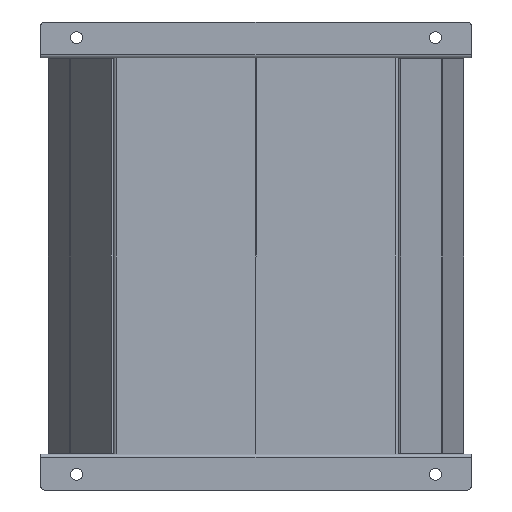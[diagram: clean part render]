
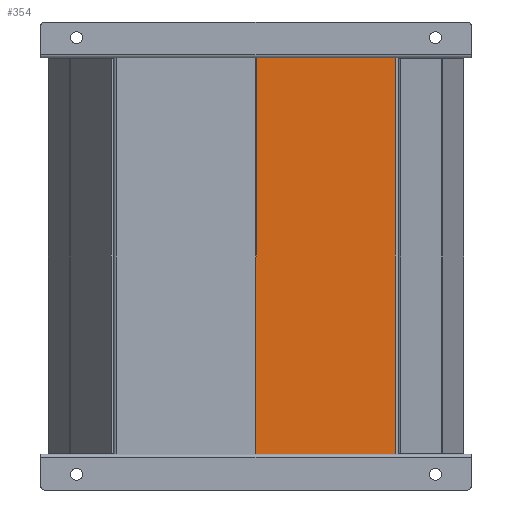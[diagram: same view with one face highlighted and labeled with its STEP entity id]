
A CAD part, front view. The second image highlights one B-rep face of the part: STEP entity #354.
In plain terms, the highlighted planar face has unit normal (0, -1, 0).
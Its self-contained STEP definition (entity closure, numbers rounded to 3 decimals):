
#212 = EDGE_LOOP ( 'NONE', ( #5277, #5278, #5298, #5349, #460, #461, #425, #426, #429, #356, #283, #387 ) ) ;
#225 = VERTEX_POINT ( 'NONE', #3616 ) ;
#227 = EDGE_CURVE ( 'NONE', #228, #225, #3615, .T. ) ;
#228 = VERTEX_POINT ( 'NONE', #3611 ) ;
#283 = ORIENTED_EDGE ( 'NONE', *, *, #3213, .F. ) ;
#284 = EDGE_CURVE ( 'NONE', #3287, #228, #3742, .T. ) ;
#354 = ADVANCED_FACE ( 'NONE', ( #3879 ), #3878, .F. ) ;
#355 = VERTEX_POINT ( 'NONE', #3873 ) ;
#356 = ORIENTED_EDGE ( 'NONE', *, *, #357, .F. ) ;
#357 = EDGE_CURVE ( 'NONE', #3146, #355, #3872, .T. ) ;
#387 = ORIENTED_EDGE ( 'NONE', *, *, #284, .T. ) ;
#425 = ORIENTED_EDGE ( 'NONE', *, *, #3205, .F. ) ;
#426 = ORIENTED_EDGE ( 'NONE', *, *, #427, .F. ) ;
#427 = EDGE_CURVE ( 'NONE', #428, #3203, #3959, .T. ) ;
#428 = VERTEX_POINT ( 'NONE', #4182 ) ;
#429 = ORIENTED_EDGE ( 'NONE', *, *, #430, .F. ) ;
#430 = EDGE_CURVE ( 'NONE', #355, #428, #4181, .T. ) ;
#459 = EDGE_CURVE ( 'NONE', #5300, #3100, #3996, .T. ) ;
#460 = ORIENTED_EDGE ( 'NONE', *, *, #3193, .T. ) ;
#461 = ORIENTED_EDGE ( 'NONE', *, *, #462, .F. ) ;
#462 = EDGE_CURVE ( 'NONE', #3206, #3190, #3992, .T. ) ;
#3100 = VERTEX_POINT ( 'NONE', #7012 ) ;
#3146 = VERTEX_POINT ( 'NONE', #7328 ) ;
#3190 = VERTEX_POINT ( 'NONE', #7225 ) ;
#3193 = EDGE_CURVE ( 'NONE', #3100, #3190, #7269, .T. ) ;
#3203 = VERTEX_POINT ( 'NONE', #7203 ) ;
#3205 = EDGE_CURVE ( 'NONE', #3203, #3206, #7285, .T. ) ;
#3206 = VERTEX_POINT ( 'NONE', #7281 ) ;
#3213 = EDGE_CURVE ( 'NONE', #3287, #3146, #7271, .T. ) ;
#3287 = VERTEX_POINT ( 'NONE', #7352 ) ;
#3611 = CARTESIAN_POINT ( 'NONE',  ( -277.5, -149.45, 195. ) ) ;
#3612 = DIRECTION ( 'NONE',  ( 0., 0., -1. ) ) ;
#3613 = VECTOR ( 'NONE', #3612, 1000. ) ;
#3614 = CARTESIAN_POINT ( 'NONE',  ( -277.5, -149.45, 195. ) ) ;
#3615 = LINE ( 'NONE', #3614, #3613 ) ;
#3616 = CARTESIAN_POINT ( 'NONE',  ( -277.5, -149.45, 56.1 ) ) ;
#3739 = DIRECTION ( 'NONE',  ( -1., 0., 0. ) ) ;
#3740 = VECTOR ( 'NONE', #3739, 1000. ) ;
#3741 = CARTESIAN_POINT ( 'NONE',  ( 277.5, -149.45, 195. ) ) ;
#3742 = LINE ( 'NONE', #3741, #3740 ) ;
#3869 = DIRECTION ( 'NONE',  ( 1., 0., 0. ) ) ;
#3870 = VECTOR ( 'NONE', #3869, 1000. ) ;
#3871 = CARTESIAN_POINT ( 'NONE',  ( 280.5, -149.45, 56.1 ) ) ;
#3872 = LINE ( 'NONE', #3871, #3870 ) ;
#3873 = CARTESIAN_POINT ( 'NONE',  ( 280.5, -149.45, 56.1 ) ) ;
#3874 = DIRECTION ( 'NONE',  ( 0., 0., 1. ) ) ;
#3875 = DIRECTION ( 'NONE',  ( 0., 1., 0. ) ) ;
#3876 = CARTESIAN_POINT ( 'NONE',  ( 277.5, -149.45, 195. ) ) ;
#3877 = AXIS2_PLACEMENT_3D ( 'NONE', #3876, #3875, #3874 ) ;
#3878 = PLANE ( 'NONE',  #3877 ) ;
#3879 = FACE_OUTER_BOUND ( 'NONE', #212, .T. ) ;
#3956 = DIRECTION ( 'NONE',  ( -1., 0., 0. ) ) ;
#3957 = VECTOR ( 'NONE', #3956, 1000. ) ;
#3958 = CARTESIAN_POINT ( 'NONE',  ( 277.5, -149.45, 50.1 ) ) ;
#3959 = LINE ( 'NONE', #3958, #3957 ) ;
#3989 = DIRECTION ( 'NONE',  ( -1., 0., 0. ) ) ;
#3990 = VECTOR ( 'NONE', #3989, 1000. ) ;
#3991 = CARTESIAN_POINT ( 'NONE',  ( 277.5, -149.45, 0.1 ) ) ;
#3992 = LINE ( 'NONE', #3991, #3990 ) ;
#3993 = DIRECTION ( 'NONE',  ( 1., 0., 0. ) ) ;
#3994 = VECTOR ( 'NONE', #3993, 1000. ) ;
#3995 = CARTESIAN_POINT ( 'NONE',  ( -277.5, -149.45, 50.1 ) ) ;
#3996 = LINE ( 'NONE', #3995, #3994 ) ;
#4178 = DIRECTION ( 'NONE',  ( 0., 0., -1. ) ) ;
#4179 = VECTOR ( 'NONE', #4178, 1000. ) ;
#4180 = CARTESIAN_POINT ( 'NONE',  ( 280.5, -149.45, 50.1 ) ) ;
#4181 = LINE ( 'NONE', #4180, #4179 ) ;
#4182 = CARTESIAN_POINT ( 'NONE',  ( 280.5, -149.45, 50.1 ) ) ;
#5277 = ORIENTED_EDGE ( 'NONE', *, *, #227, .T. ) ;
#5278 = ORIENTED_EDGE ( 'NONE', *, *, #5279, .T. ) ;
#5279 = EDGE_CURVE ( 'NONE', #225, #5297, #7364, .T. ) ;
#5297 = VERTEX_POINT ( 'NONE', #7377 ) ;
#5298 = ORIENTED_EDGE ( 'NONE', *, *, #5299, .T. ) ;
#5299 = EDGE_CURVE ( 'NONE', #5297, #5300, #7488, .T. ) ;
#5300 = VERTEX_POINT ( 'NONE', #7484 ) ;
#5349 = ORIENTED_EDGE ( 'NONE', *, *, #459, .T. ) ;
#7012 = CARTESIAN_POINT ( 'NONE',  ( -277.5, -149.45, 50.1 ) ) ;
#7201 = DIRECTION ( 'NONE',  ( 0., 0., -1. ) ) ;
#7202 = VECTOR ( 'NONE', #7201, 1000. ) ;
#7203 = CARTESIAN_POINT ( 'NONE',  ( 277.5, -149.45, 50.1 ) ) ;
#7225 = CARTESIAN_POINT ( 'NONE',  ( -277.5, -149.45, 0.1 ) ) ;
#7261 = DIRECTION ( 'NONE',  ( 0., 0., -1. ) ) ;
#7262 = VECTOR ( 'NONE', #7261, 1000. ) ;
#7263 = CARTESIAN_POINT ( 'NONE',  ( -277.5, -149.45, 195. ) ) ;
#7269 = LINE ( 'NONE', #7263, #7262 ) ;
#7270 = CARTESIAN_POINT ( 'NONE',  ( 277.5, -149.45, 195. ) ) ;
#7271 = LINE ( 'NONE', #7270, #7202 ) ;
#7281 = CARTESIAN_POINT ( 'NONE',  ( 277.5, -149.45, 0.1 ) ) ;
#7282 = DIRECTION ( 'NONE',  ( 0., 0., -1. ) ) ;
#7283 = VECTOR ( 'NONE', #7282, 1000. ) ;
#7284 = CARTESIAN_POINT ( 'NONE',  ( 277.5, -149.45, 195. ) ) ;
#7285 = LINE ( 'NONE', #7284, #7283 ) ;
#7328 = CARTESIAN_POINT ( 'NONE',  ( 277.5, -149.45, 56.1 ) ) ;
#7352 = CARTESIAN_POINT ( 'NONE',  ( 277.5, -149.45, 195. ) ) ;
#7363 = CARTESIAN_POINT ( 'NONE',  ( -280.5, -149.45, 56.1 ) ) ;
#7364 = LINE ( 'NONE', #7363, #7447 ) ;
#7377 = CARTESIAN_POINT ( 'NONE',  ( -280.5, -149.45, 56.1 ) ) ;
#7446 = DIRECTION ( 'NONE',  ( -1., 0., 0. ) ) ;
#7447 = VECTOR ( 'NONE', #7446, 1000. ) ;
#7484 = CARTESIAN_POINT ( 'NONE',  ( -280.5, -149.45, 50.1 ) ) ;
#7485 = DIRECTION ( 'NONE',  ( 0., 0., -1. ) ) ;
#7486 = VECTOR ( 'NONE', #7485, 1000. ) ;
#7487 = CARTESIAN_POINT ( 'NONE',  ( -280.5, -149.45, 50.1 ) ) ;
#7488 = LINE ( 'NONE', #7487, #7486 ) ;
